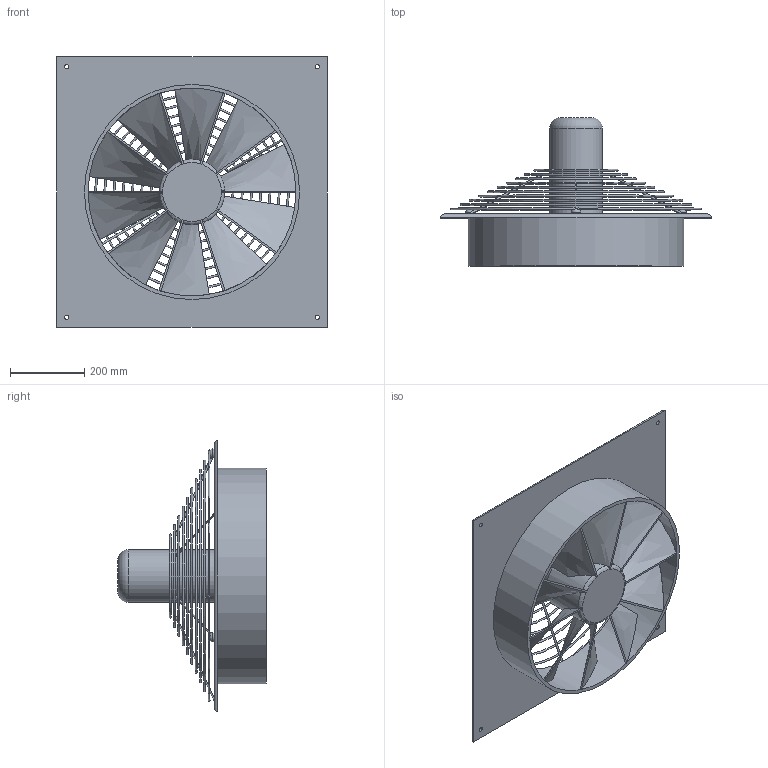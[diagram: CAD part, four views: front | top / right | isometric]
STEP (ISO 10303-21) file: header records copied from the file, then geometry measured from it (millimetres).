
FILE_DESCRIPTION(/* description */ (''),/* implementation_level */ '2;1');
FILE_NAME(/* name */ 'Z:\Output\HQD_560-6_EX-00378-021.stp',/* time_stamp */ '2020-05-11T13:50:35+02:00',/* author */ ('pareshmistry'),/* organization */ (''),/* preprocessor_version */ 'ST-DEVELOPER v17.2',/* originating_system */ 'Autodesk Inventor 2019',/* authorisation */ '');
FILE_SCHEMA (('AUTOMOTIVE_DESIGN { 1 0 10303 214 3 1 1 }'));
Length unit declared in the file: millimetre
Products named in the file (1): HQW EC 450
Bounding box: 730 x 400 x 730 mm (x, y, z)
Volume: 13480218.1 mm3; surface area: 2003208.9 mm2
Topology: 11 solids, 11 shells, 105 faces, 332 edges, 236 vertices
Faces by surface type: bspline 33, plane 28, cylinder 23, torus 21
Full cylindrical faces by diameter (mm): 5 x6, 11 x4, 25 x3, 142 x1, 176 x1, 560 x1, 580 x1
Entity records: 5455 total; most frequent: CARTESIAN_POINT 2459, ORIENTED_EDGE 704, DIRECTION 504, EDGE_CURVE 352, VERTEX_POINT 256, AXIS2_PLACEMENT_3D 207, EDGE_LOOP 126, B_SPLINE_CURVE_WITH_KNOTS 125
